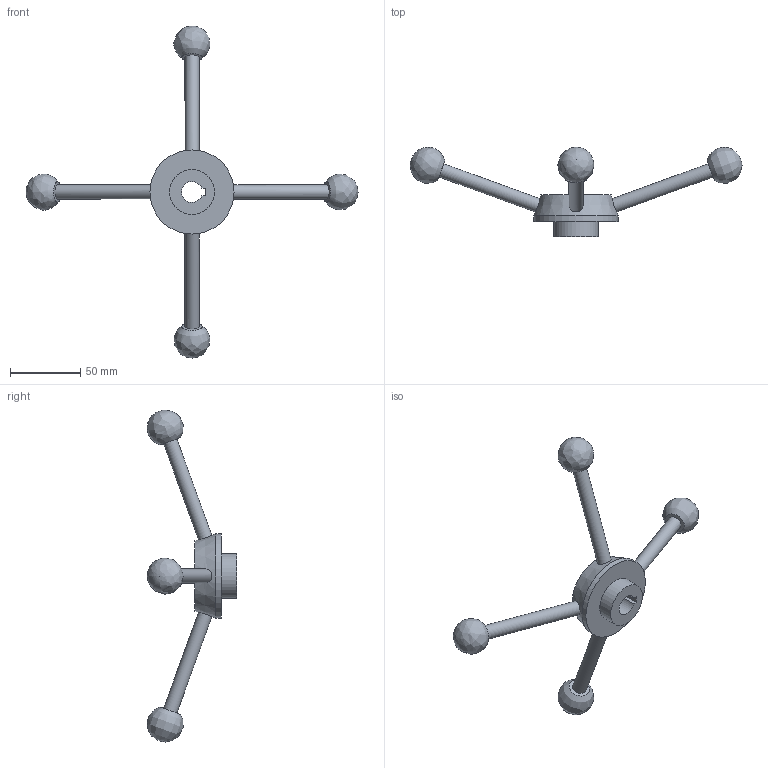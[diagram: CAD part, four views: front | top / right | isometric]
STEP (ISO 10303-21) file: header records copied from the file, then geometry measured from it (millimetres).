
FILE_DESCRIPTION( ( 'STEP AP203' ), '1' );
FILE_NAME( 'C:/Temp/Ganter_Step_05_03_2020/data/2_1/gn_213/gn_213_k/Turret lever GN 213-60-K15.stp', '2020-03-05T11:51:09', ( 'License CC BY-ND 4.0' ), ( 'CADENAS' ), ' ', 'PARTsolutions', ' ' );
FILE_SCHEMA( ( 'CONFIG_CONTROL_DESIGN' ) );
Length unit declared in the file: millimetre
Products named in the file (1): _Turret lever GN 213-60-K15
Bounding box: 236.89 x 64 x 236.89 mm (x, y, z)
Volume: 107982.1 mm3; surface area: 27394.1 mm2
Topology: 1 solids, 1 shells, 22 faces, 50 edges, 34 vertices
Faces by surface type: plane 10, cylinder 7, bspline 4, cone 1
Full cylindrical faces by diameter (mm): 10 x4, 32 x1, 60 x1
Entity records: 920 total; most frequent: CARTESIAN_POINT 477, DIRECTION 78, ORIENTED_EDGE 58, EDGE_LOOP 40, AXIS2_PLACEMENT_3D 34, VERTEX_POINT 29, EDGE_CURVE 29, FACE_OUTER_BOUND 28
